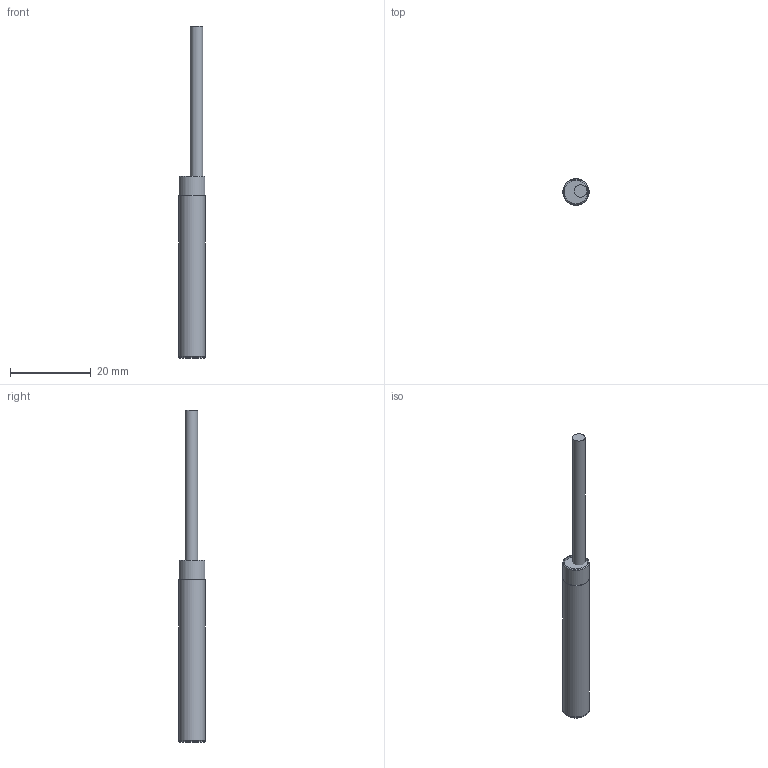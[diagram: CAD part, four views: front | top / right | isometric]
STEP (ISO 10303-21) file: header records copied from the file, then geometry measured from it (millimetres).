
FILE_DESCRIPTION( ( 'Unknown' ), '1' );
FILE_NAME( 'C:/Users/acasucci/Desktop/AH1_1A_fig.stp', 'Unknown', ( 'Unknown' ), ( 'Unknown' ), 'PSStep 17.0.49', 'Unknown', ' ' );
FILE_SCHEMA( ( 'AUTOMOTIVE_DESIGN { 1 0 10303 214 1 1 1 1 }' ) );
Length unit declared in the file: millimetre
Products named in the file (5): Assem1; -oa0
Assembly tree (4 placements, depth 2):
  Assem1
    -oa0
    -oa0
    -oa0
    -oa0
Bounding box: 6.5 x 6.5 x 82.1 mm (x, y, z)
Volume: 1779.1 mm3; surface area: 1525 mm2
Topology: 4 solids, 4 shells, 18 faces, 24 edges, 15 vertices
Faces by surface type: plane 9, cylinder 5, torus 2, cone 2
Full cylindrical faces by diameter (mm): 3.1 x1, 5.8 x1, 6.45 x1, 6.5 x2
Entity records: 409 total; most frequent: DIRECTION 74, CARTESIAN_POINT 51, AXIS2_PLACEMENT_3D 37, EDGE_LOOP 28, ORIENTED_EDGE 28, FACE_OUTER_BOUND 25, ADVANCED_FACE 18, EDGE_CURVE 14
